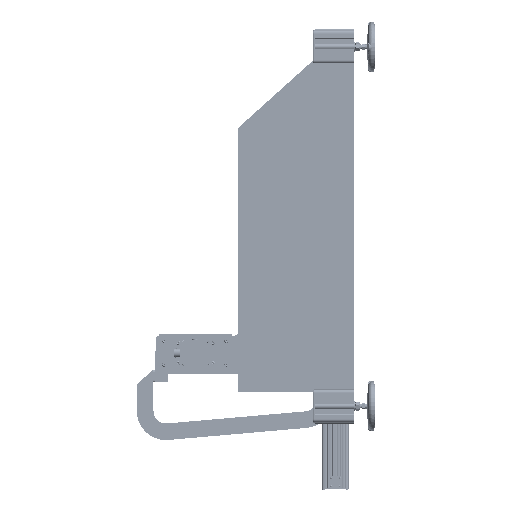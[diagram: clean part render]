
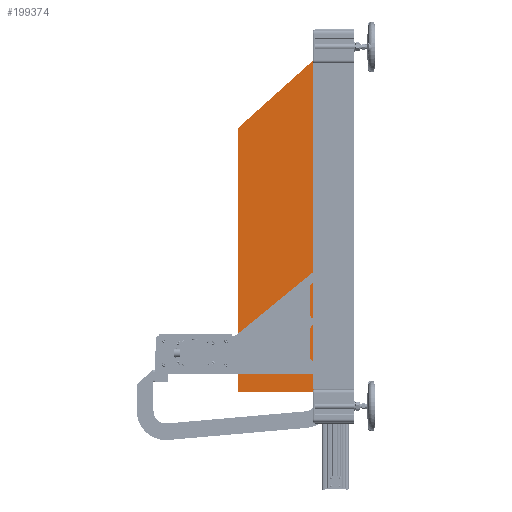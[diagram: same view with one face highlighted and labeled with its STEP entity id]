
A CAD part, left-side view. The second image highlights one B-rep face of the part: STEP entity #199374.
In plain terms, the highlighted planar face has unit normal (-1, 0, 0).
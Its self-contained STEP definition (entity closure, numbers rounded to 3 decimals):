
#3809 = CARTESIAN_POINT ( 'NONE',  ( -291., 135., 304.3 ) ) ;
#13310 = EDGE_CURVE ( 'NONE', #337025, #386926, #411590, .T. ) ;
#28363 = EDGE_CURVE ( 'NONE', #290940, #337025, #354701, .T. ) ;
#34121 = CARTESIAN_POINT ( 'NONE',  ( -291., 95., -400. ) ) ;
#38734 = CARTESIAN_POINT ( 'NONE',  ( -291., 135., -300. ) ) ;
#42329 = EDGE_LOOP ( 'NONE', ( #116000 ) ) ;
#42973 = VERTEX_POINT ( 'NONE', #201596 ) ;
#52652 = EDGE_CURVE ( 'NONE', #147942, #147942, #209350, .T. ) ;
#53092 = DIRECTION ( 'NONE',  ( 1., 0., 0. ) ) ;
#57182 = EDGE_CURVE ( 'NONE', #74675, #74675, #164585, .T. ) ;
#57245 = CARTESIAN_POINT ( 'NONE',  ( -291., 95., 400. ) ) ;
#64774 = CARTESIAN_POINT ( 'NONE',  ( -291., 330., -400. ) ) ;
#66578 = CARTESIAN_POINT ( 'NONE',  ( -291., 135., -95.7 ) ) ;
#66605 = CARTESIAN_POINT ( 'NONE',  ( -291., 95., -400. ) ) ;
#67168 = LINE ( 'NONE', #233359, #223867 ) ;
#69158 = CARTESIAN_POINT ( 'NONE',  ( -291., 330., -400. ) ) ;
#72238 = DIRECTION ( 'NONE',  ( 0., 0., 1. ) ) ;
#74675 = VERTEX_POINT ( 'NONE', #3809 ) ;
#76246 = EDGE_CURVE ( 'NONE', #205892, #88939, #67168, .T. ) ;
#84331 = CARTESIAN_POINT ( 'NONE',  ( -291., 330., 238. ) ) ;
#86146 = EDGE_CURVE ( 'NONE', #42973, #42973, #420126, .T. ) ;
#87812 = VECTOR ( 'NONE', #98244, 1000. ) ;
#88939 = VERTEX_POINT ( 'NONE', #270343 ) ;
#97144 = DIRECTION ( 'NONE',  ( 0., 0.743, -0.669 ) ) ;
#98244 = DIRECTION ( 'NONE',  ( 0., -1., 0. ) ) ;
#100563 = ORIENTED_EDGE ( 'NONE', *, *, #172644, .T. ) ;
#104316 = AXIS2_PLACEMENT_3D ( 'NONE', #253069, #53092, #286519 ) ;
#116000 = ORIENTED_EDGE ( 'NONE', *, *, #52652, .T. ) ;
#123891 = DIRECTION ( 'NONE',  ( 1., 0., 0. ) ) ;
#127676 = FACE_OUTER_BOUND ( 'NONE', #139700, .T. ) ;
#128325 = ORIENTED_EDGE ( 'NONE', *, *, #28363, .T. ) ;
#128631 = LINE ( 'NONE', #34121, #384666 ) ;
#128825 = DIRECTION ( 'NONE',  ( 1., 0., 0. ) ) ;
#134713 = DIRECTION ( 'NONE',  ( 0., 0., 1. ) ) ;
#139700 = EDGE_LOOP ( 'NONE', ( #418745, #100563, #247725, #378054, #128325 ) ) ;
#140528 = EDGE_CURVE ( 'NONE', #270827, #270827, #151522, .T. ) ;
#147942 = VERTEX_POINT ( 'NONE', #66578 ) ;
#151522 = CIRCLE ( 'NONE', #104316, 4.3 ) ;
#151767 = AXIS2_PLACEMENT_3D ( 'NONE', #323857, #123891, #357444 ) ;
#164585 = CIRCLE ( 'NONE', #151767, 4.3 ) ;
#167302 = DIRECTION ( 'NONE',  ( 0., 0., 1. ) ) ;
#172644 = EDGE_CURVE ( 'NONE', #386926, #205892, #128631, .T. ) ;
#181248 = AXIS2_PLACEMENT_3D ( 'NONE', #328794, #128825, #362431 ) ;
#186677 = EDGE_LOOP ( 'NONE', ( #315466 ) ) ;
#199374 = ADVANCED_FACE ( 'NONE', ( #404559, #216620, #305310, #227055, #127676 ), #300122, .T. ) ;
#201596 = CARTESIAN_POINT ( 'NONE',  ( -291., 135., -295.7 ) ) ;
#203718 = DIRECTION ( 'NONE',  ( 0., 0., -1. ) ) ;
#205892 = VERTEX_POINT ( 'NONE', #57245 ) ;
#209350 = CIRCLE ( 'NONE', #181248, 4.3 ) ;
#210052 = EDGE_LOOP ( 'NONE', ( #317174 ) ) ;
#216620 = FACE_BOUND ( 'NONE', #186677, .T. ) ;
#223867 = VECTOR ( 'NONE', #268418, 1000. ) ;
#227055 = FACE_BOUND ( 'NONE', #340714, .T. ) ;
#227231 = AXIS2_PLACEMENT_3D ( 'NONE', #38734, #272293, #72238 ) ;
#230103 = CARTESIAN_POINT ( 'NONE',  ( -291., 150., 400. ) ) ;
#230498 = ORIENTED_EDGE ( 'NONE', *, *, #86146, .T. ) ;
#233359 = CARTESIAN_POINT ( 'NONE',  ( -291., 95., 400. ) ) ;
#247725 = ORIENTED_EDGE ( 'NONE', *, *, #76246, .T. ) ;
#253069 = CARTESIAN_POINT ( 'NONE',  ( -291., 135., 100. ) ) ;
#257414 = AXIS2_PLACEMENT_3D ( 'NONE', #66605, #367308, #167302 ) ;
#268418 = DIRECTION ( 'NONE',  ( 0., 1., 0. ) ) ;
#270343 = CARTESIAN_POINT ( 'NONE',  ( -291., 150., 400. ) ) ;
#270827 = VERTEX_POINT ( 'NONE', #349667 ) ;
#272293 = DIRECTION ( 'NONE',  ( 1., 0., 0. ) ) ;
#286519 = DIRECTION ( 'NONE',  ( 0., 0., 1. ) ) ;
#290940 = VERTEX_POINT ( 'NONE', #84331 ) ;
#297209 = VECTOR ( 'NONE', #97144, 1000. ) ;
#300122 = PLANE ( 'NONE',  #257414 ) ;
#305310 = FACE_BOUND ( 'NONE', #42329, .T. ) ;
#307696 = LINE ( 'NONE', #230103, #297209 ) ;
#315466 = ORIENTED_EDGE ( 'NONE', *, *, #140528, .T. ) ;
#317174 = ORIENTED_EDGE ( 'NONE', *, *, #57182, .T. ) ;
#323857 = CARTESIAN_POINT ( 'NONE',  ( -291., 135., 300. ) ) ;
#328794 = CARTESIAN_POINT ( 'NONE',  ( -291., 135., -100. ) ) ;
#337025 = VERTEX_POINT ( 'NONE', #69158 ) ;
#340714 = EDGE_LOOP ( 'NONE', ( #230498 ) ) ;
#341067 = CARTESIAN_POINT ( 'NONE',  ( -291., 95., -400. ) ) ;
#349667 = CARTESIAN_POINT ( 'NONE',  ( -291., 135., 104.3 ) ) ;
#350634 = EDGE_CURVE ( 'NONE', #88939, #290940, #307696, .T. ) ;
#354701 = LINE ( 'NONE', #399315, #432931 ) ;
#357444 = DIRECTION ( 'NONE',  ( 0., 0., 1. ) ) ;
#362431 = DIRECTION ( 'NONE',  ( 0., 0., 1. ) ) ;
#367308 = DIRECTION ( 'NONE',  ( -1., 0., 0. ) ) ;
#378054 = ORIENTED_EDGE ( 'NONE', *, *, #350634, .T. ) ;
#384666 = VECTOR ( 'NONE', #134713, 1000. ) ;
#386926 = VERTEX_POINT ( 'NONE', #341067 ) ;
#399315 = CARTESIAN_POINT ( 'NONE',  ( -291., 330., 238. ) ) ;
#404559 = FACE_BOUND ( 'NONE', #210052, .T. ) ;
#411590 = LINE ( 'NONE', #64774, #87812 ) ;
#418745 = ORIENTED_EDGE ( 'NONE', *, *, #13310, .T. ) ;
#420126 = CIRCLE ( 'NONE', #227231, 4.3 ) ;
#432931 = VECTOR ( 'NONE', #203718, 1000. ) ;
